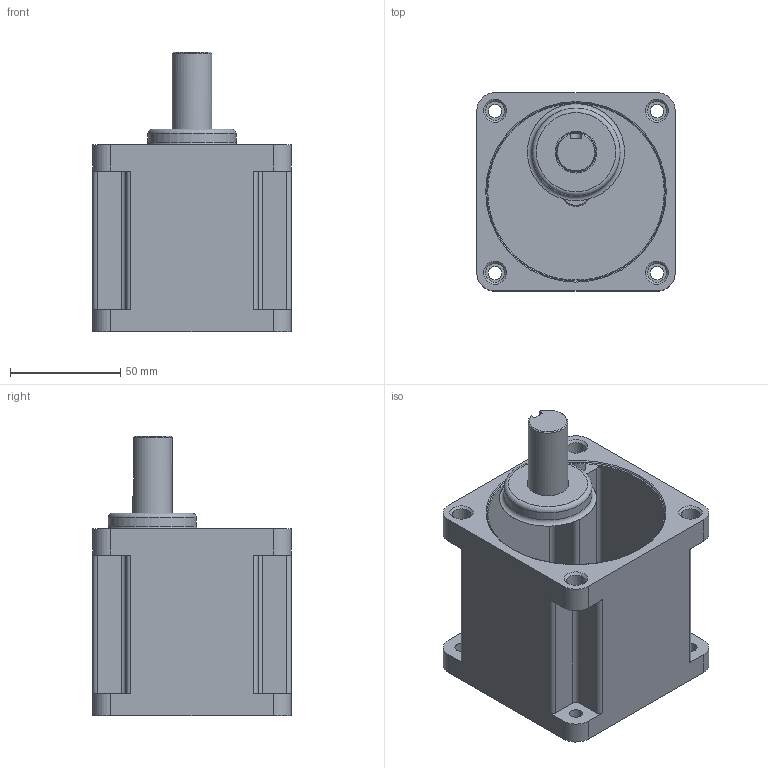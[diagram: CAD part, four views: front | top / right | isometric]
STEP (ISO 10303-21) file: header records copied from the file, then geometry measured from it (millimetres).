
FILE_DESCRIPTION((''),'2;1');
FILE_NAME('D:\김성묵\업무폴더\개발 파일\프로젝트 개발 AB등급\AC표준형 개발자료\90각 이하 표준형 개발\도면작성 자료\3D 도면\GEAR HEAD\S9KD3B~200B.stp','2015-03-24T19:01:39',('smkim'),(''),'Autodesk Inventor 2012','Autodesk Inventor 2012','');
FILE_SCHEMA(('AUTOMOTIVE_DESIGN { 1 0 10303 214 1 1 1 1 }'));
Length unit declared in the file: millimetre
Products named in the file (1): S9KD3B~200B
Bounding box: 90 x 90 x 127 mm (x, y, z)
Volume: 619307.8 mm3; surface area: 53956.4 mm2
Topology: 1 solids, 1 shells, 79 faces, 205 edges, 133 vertices
Faces by surface type: cylinder 34, plane 31, cone 7, torus 4, bspline 3
Full cylindrical faces by diameter (mm): 6 x4, 8.5 x4, 12 x1, 18 x1, 19 x1, 40 x1, 83 x1
Entity records: 2471 total; most frequent: CARTESIAN_POINT 556, DIRECTION 399, ORIENTED_EDGE 356, EDGE_CURVE 178, AXIS2_PLACEMENT_3D 156, VERTEX_POINT 129, EDGE_LOOP 123, VECTOR 87
